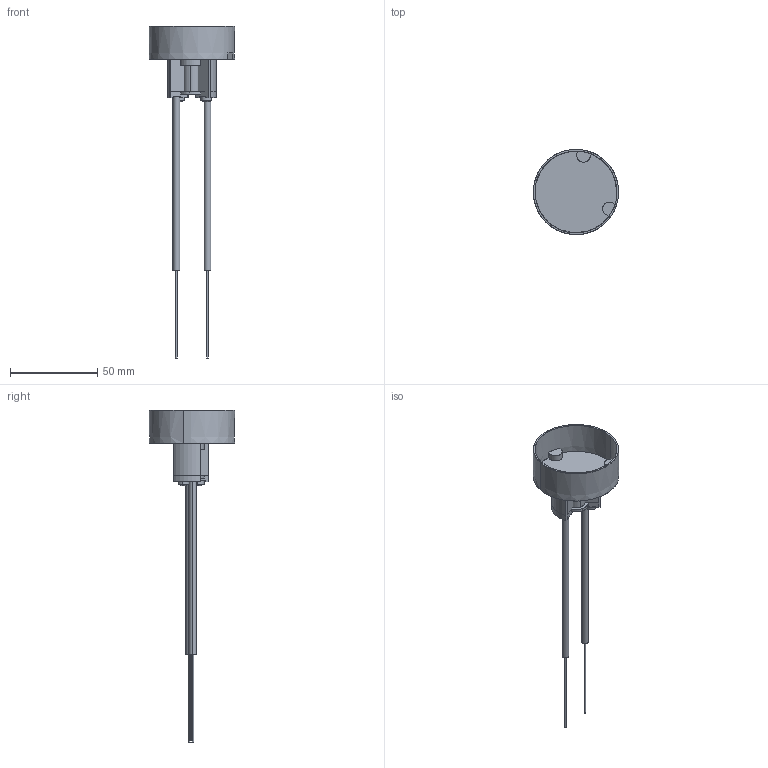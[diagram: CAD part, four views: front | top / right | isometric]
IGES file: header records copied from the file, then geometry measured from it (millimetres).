
Start section: SolidWorks IGES file using analytic representation for surfaces
Global section: file name: C:\Users\Toshiba\Desktop\FR-20PRO.IGS; native system: SolidWorks 2014; preprocessor: SolidWorks 2014; author: Toshiba; date: 160621.083627; units: metre
Bounding box: 49 x 49 x 190.7 mm (x, y, z)
Surface area: 16776.4 mm2 (no closed solid volume)
Topology: 0 solids, 0 shells, 161 faces, 2178 edges, 2178 vertices
Faces by surface type: bspline 85, revolution 76
